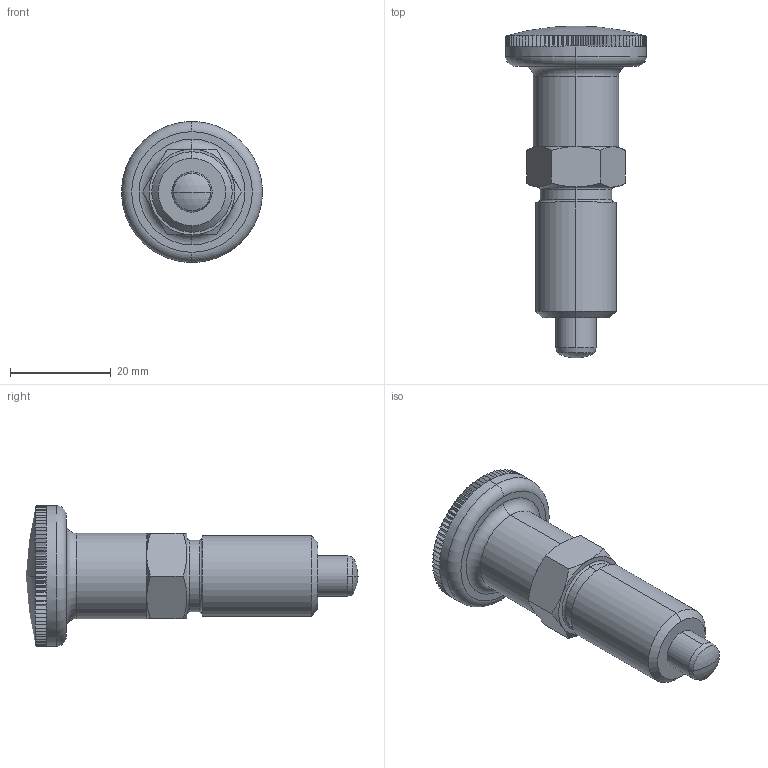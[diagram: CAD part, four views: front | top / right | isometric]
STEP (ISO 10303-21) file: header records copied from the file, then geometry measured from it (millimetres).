
FILE_DESCRIPTION (( 'STEP AP203' ), '1' );
FILE_NAME ('32690.W0132.step', '2011-03-25T12:22:17', ( 'Wixroyd' ), ( 'Wixroyd' ), 'SwSTEP 2.0', 'SolidWorks 2009', '' );
FILE_SCHEMA (( 'CONFIG_CONTROL_DESIGN' ));
Length unit declared in the file: millimetre
Products named in the file (4): Part2_3269.W132; Part1_3269.W132; 32690.W0132; Part3_3269.W132
Assembly tree (3 placements, depth 2):
  32690.W0132
    Part1_3269.W132
    Part2_3269.W132
    Part3_3269.W132
Bounding box: 28 x 66 x 28 mm (x, y, z)
Volume: 14064.9 mm3; surface area: 8360.4 mm2
Topology: 3 solids, 3 shells, 354 faces, 814 edges, 472 vertices
Faces by surface type: plane 305, cylinder 21, cone 16, torus 8, sphere 4
Entity records: 10372 total; most frequent: DIRECTION 1870, CARTESIAN_POINT 1786, ORIENTED_EDGE 1628, EDGE_CURVE 814, AXIS2_PLACEMENT_3D 720, VERTEX_POINT 472, VECTOR 430, LINE 430
